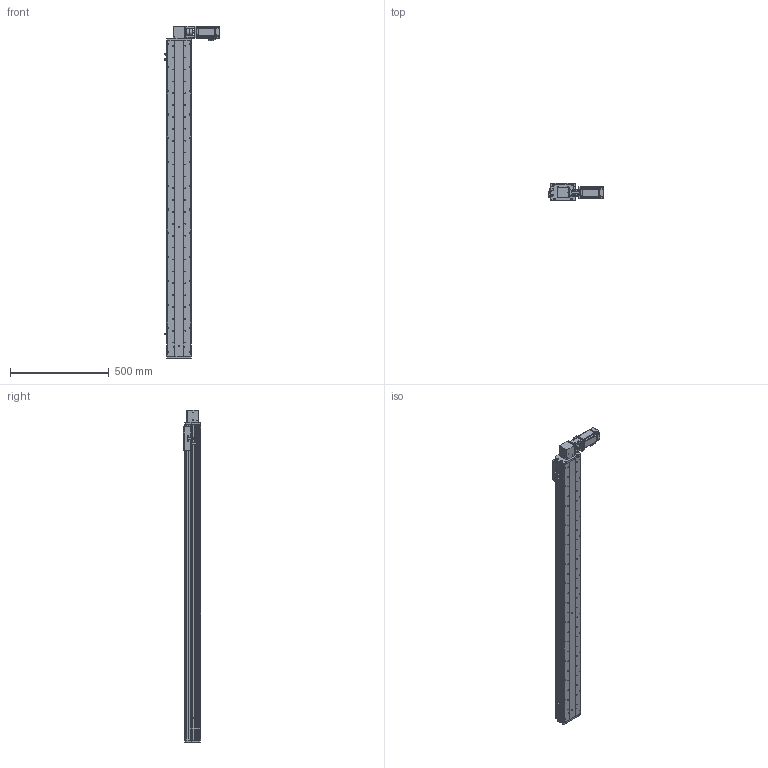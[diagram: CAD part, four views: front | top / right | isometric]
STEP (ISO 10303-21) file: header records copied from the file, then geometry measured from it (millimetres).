
FILE_DESCRIPTION (( 'STEP AP214' ), '1' );
FILE_NAME ('KSD125B-S1400-MRT-CM.STEP', '2017-10-21T07:11:52', ( '微软用户' ), ( '微软中国' ), 'SwSTEP 2.0', 'SolidWorks 2014', '' );
FILE_SCHEMA (( 'AUTOMOTIVE_DESIGN' ));
Length unit declared in the file: millimetre
Products named in the file (16): 100宽马达安装板同步带左; KSD125模组1400行程同步带-防尘盖; 125模组1400行程同步带-底板; MHMD042G1CA_2_03; KSD125模组同步带-防撞垫2; CS-34X32-10X14; 100遵鎮湛假蚾啣1 ; 覜茼え68遵圉猾敕; U倰嫖萇假蚾璃; U倰嫖萇EEㄜSX672; KSD125模组同步带-防撞垫1; 100宽安装板同步带带电机座400W,86; 前端板-125宽模组同步带; 125模组同步带-尾端板1; KSD125模组同步带-滑动座1; KSD125B-S1400-MRT-CM
Assembly tree (19 placements, depth 2):
  KSD125B-S1400-MRT-CM
    KSD125模组同步带-滑动座1
    125模组同步带-尾端板1
    前端板-125宽模组同步带
    100宽安装板同步带带电机座400W,86
    KSD125模组同步带-防撞垫1
    U倰嫖萇EEㄜSX672  x3
    U倰嫖萇假蚾璃  x3
    覜茼え68遵圉猾敕
    100遵鎮湛假蚾啣1 
    CS-34X32-10X14
    KSD125模组同步带-防撞垫2
    MHMD042G1CA_2_03
    125模组1400行程同步带-底板
    KSD125模组1400行程同步带-防尘盖
    100宽马达安装板同步带左
Bounding box: 282.7 x 86 x 1677 mm (x, y, z)
Volume: 4975347.2 mm3; surface area: 1625331.9 mm2
Topology: 18 solids, 21 shells, 1782 faces, 5122 edges, 3380 vertices
Faces by surface type: cylinder 965, plane 714, cone 81, bspline 22
Entity records: 63234 total; most frequent: CARTESIAN_POINT 12728, DIRECTION 9277, ORIENTED_EDGE 8764, EDGE_CURVE 4460, AXIS2_PLACEMENT_3D 3477, VERTEX_POINT 2972, LINE 2323, VECTOR 2323
